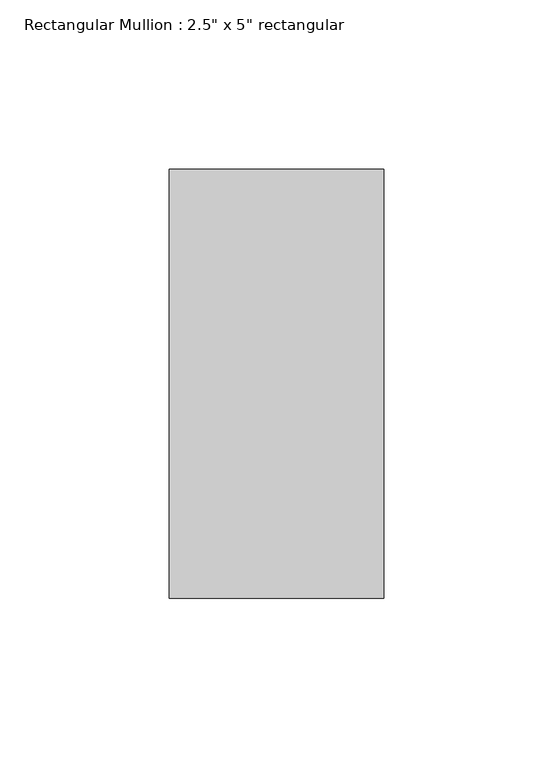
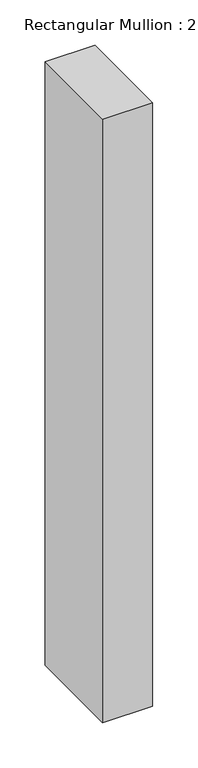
"""IFC4 building model written with IfcOpenShell, lengths in millimetres: member geometry."""

from ifc_helpers import new_model, si_unit, frame, origin, place, context, project, spatial, polyline, outline, extrude, source, transform, mapped, element, save


def member_58a4a87b(model_context):
    return source(origin(), model_context, "Body", "SweptSolid", [
        extrude(outline(polyline([(31.75, 63.5), (31.75, -63.5), (-31.75, -63.5), (-31.75, 63.5), (31.75, 63.5)])), frame((0.0, 0.0, -812.8), z_axis=(0.0, 0.0, 1.0), x_axis=(1.0, 0.0, 0.0)), (0.0, 0.0, 1.0), 812.8),
    ])


if __name__ == "__main__":
    model = new_model("IFC4")
    model_context = context("Model", 3, world=origin())
    ifc_project = project(units=[si_unit("LENGTHUNIT", "METRE", prefix="MILLI")], contexts=[model_context])
    site = spatial("IfcSite", under=ifc_project)
    building = spatial("IfcBuilding", under=site)
    placement = place(None, origin())
    member_shape = member_58a4a87b(model_context)
    element("IfcMember", 1, ObjectType="Rectangular Mullion : 2.5\" x 5\" rectangular", at=placement, inside=building, context=model_context, shape_type="MappedRepresentation", body=[
        mapped(member_shape, transform((0.0, 0.0, 0.0), x_axis=(1.0, 0.0, 0.0), y_axis=(0.0, 1.0, 0.0), z_axis=(0.0, 0.0, 1.0))),
    ])
    save(model, "model.ifc")
